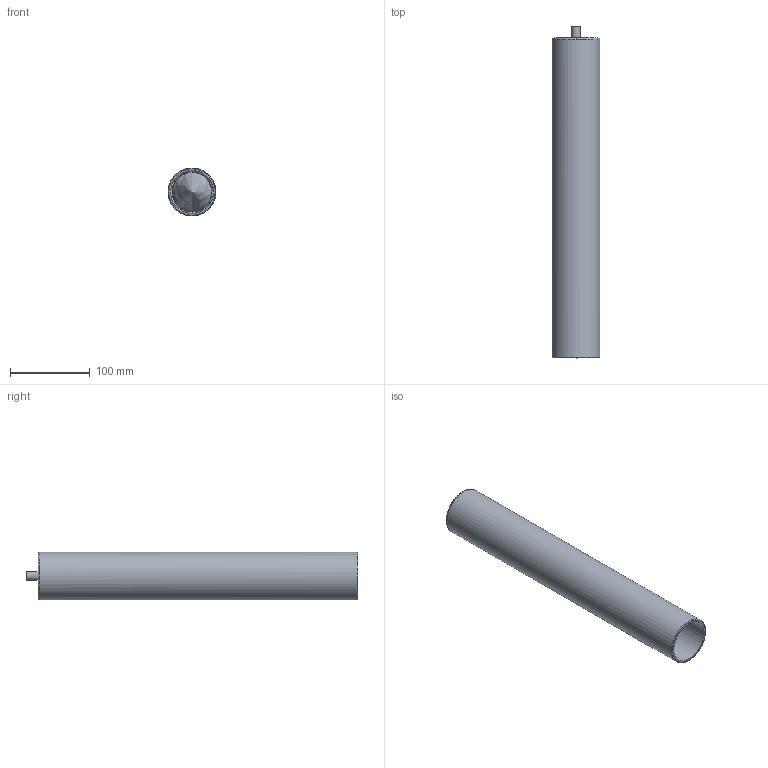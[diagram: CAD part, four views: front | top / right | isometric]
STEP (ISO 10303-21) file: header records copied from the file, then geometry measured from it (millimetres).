
FILE_DESCRIPTION(/* description */ (''),/* implementation_level */ '2;1');
FILE_NAME(/* name */ 'SEM.000261',/* time_stamp */ '2025-04-15T17:54:14+02:00',/* author */ (''),/* organization */ (''),/* preprocessor_version */ 'ST-DEVELOPER v16.5',/* originating_system */ 'Rhino 7.37',/* authorisation */ '');
FILE_SCHEMA (('CONFIG_CONTROL_DESIGN'));
Length unit declared in the file: millimetre
Products named in the file (1): Document
Bounding box: 60 x 415 x 60 mm (x, y, z)
Volume: 278078.6 mm3; surface area: 179956 mm2
Topology: 4 solids, 4 shells, 91 faces, 323 edges, 241 vertices
Faces by surface type: cylinder 37, bspline 30, plane 24
Full cylindrical faces by diameter (mm): 2.459 x2, 3 x2, 4.134 x1, 5 x1, 7.5 x4, 8 x1, 8.2 x4, 11 x1, 40.5 x1, 40.7 x1, 41.6 x1, 42 x2, 45 x1, 50 x1, 53.6 x1, 60 x1
Entity records: 5817 total; most frequent: CARTESIAN_POINT 3878, ORIENTED_EDGE 636, EDGE_CURVE 318, VERTEX_POINT 241, B_SPLINE_CURVE_WITH_KNOTS 134, EDGE_LOOP 119, ADVANCED_FACE 91, FACE_OUTER_BOUND 91
